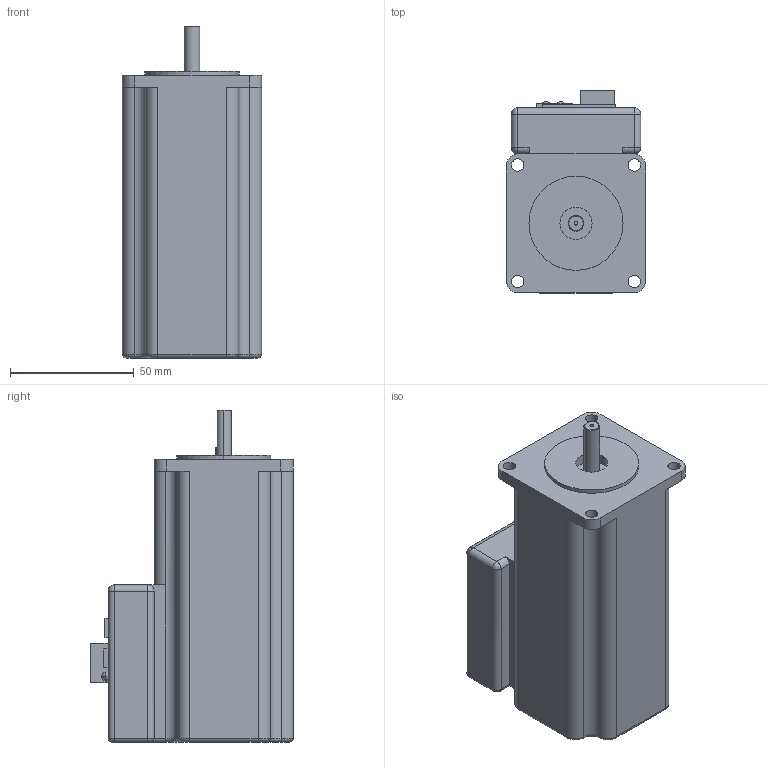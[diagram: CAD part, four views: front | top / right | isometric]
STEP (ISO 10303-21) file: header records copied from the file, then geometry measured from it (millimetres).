
FILE_DESCRIPTION((''),'2;1');
FILE_NAME('CU_ISM-7412','2014-08-01T',('jbuhisan'),(''),'PRO/ENGINEER BY PARAMETRIC TECHNOLOGY CORPORATION, 2014000','PRO/ENGINEER BY PARAMETRIC TECHNOLOGY CORPORATION, 2014000','');
FILE_SCHEMA(('CONFIG_CONTROL_DESIGN'));
Length unit declared in the file: centimetre
Products named in the file (1): CU_ISM-7412
Bounding box: 56.4 x 82.05 x 134.4 mm (x, y, z)
Volume: 387203.6 mm3; surface area: 37799.6 mm2
Topology: 1 solids, 1 shells, 136 faces, 364 edges, 236 vertices
Faces by surface type: plane 58, cylinder 55, torus 10, bspline 8, sphere 4, cone 1
Entity records: 4488 total; most frequent: CARTESIAN_POINT 943, DIRECTION 771, ORIENTED_EDGE 720, EDGE_CURVE 360, AXIS2_PLACEMENT_3D 291, VERTEX_POINT 236, VECTOR 189, LINE 189
